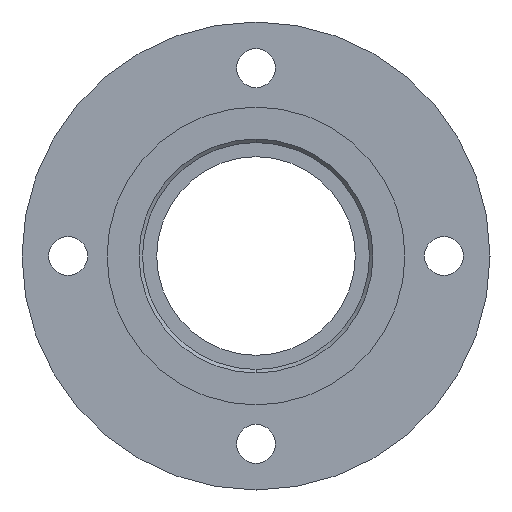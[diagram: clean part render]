
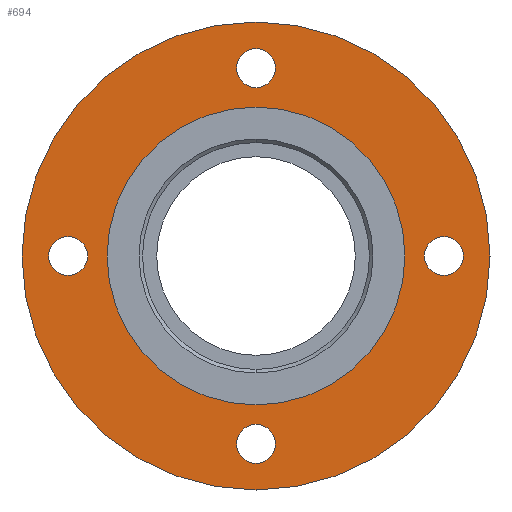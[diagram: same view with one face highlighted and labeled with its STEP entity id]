
A CAD part, front view. The second image highlights one B-rep face of the part: STEP entity #694.
In plain terms, the highlighted planar face has unit normal (0, -1, 0).
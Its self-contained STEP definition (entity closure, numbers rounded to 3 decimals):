
#8 = CIRCLE ( 'NONE', #708, 2.75 ) ;
#31 = CIRCLE ( 'NONE', #139, 33. ) ;
#56 = CARTESIAN_POINT ( 'NONE',  ( 0., 13., 33. ) ) ;
#67 = CARTESIAN_POINT ( 'NONE',  ( -26.5, 13., 0. ) ) ;
#70 = CARTESIAN_POINT ( 'NONE',  ( 0., 13., -29.25 ) ) ;
#84 = DIRECTION ( 'NONE',  ( 0., 1., 0. ) ) ;
#95 = AXIS2_PLACEMENT_3D ( 'NONE', #110, #1015, #1555 ) ;
#101 = VERTEX_POINT ( 'NONE', #666 ) ;
#104 = DIRECTION ( 'NONE',  ( 0., 0., 1. ) ) ;
#110 = CARTESIAN_POINT ( 'NONE',  ( 0., 13., 0. ) ) ;
#131 = DIRECTION ( 'NONE',  ( 0., 1., 0. ) ) ;
#138 = CARTESIAN_POINT ( 'NONE',  ( 0., 13., -26.5 ) ) ;
#139 = AXIS2_PLACEMENT_3D ( 'NONE', #1523, #726, #738 ) ;
#148 = CIRCLE ( 'NONE', #825, 2.75 ) ;
#164 = CARTESIAN_POINT ( 'NONE',  ( 0., 13., 0. ) ) ;
#165 = ORIENTED_EDGE ( 'NONE', *, *, #1578, .F. ) ;
#182 = FACE_BOUND ( 'NONE', #1008, .T. ) ;
#203 = CARTESIAN_POINT ( 'NONE',  ( 0., 13., 29.25 ) ) ;
#251 = CARTESIAN_POINT ( 'NONE',  ( 0., 13., -26.5 ) ) ;
#260 = EDGE_CURVE ( 'NONE', #1276, #1350, #31, .T. ) ;
#289 = PLANE ( 'NONE',  #870 ) ;
#322 = DIRECTION ( 'NONE',  ( 0., 1., 0. ) ) ;
#327 = ORIENTED_EDGE ( 'NONE', *, *, #260, .T. ) ;
#358 = CARTESIAN_POINT ( 'NONE',  ( 0., 13., 26.5 ) ) ;
#364 = CIRCLE ( 'NONE', #472, 33. ) ;
#370 = ORIENTED_EDGE ( 'NONE', *, *, #1125, .T. ) ;
#372 = EDGE_LOOP ( 'NONE', ( #165, #718 ) ) ;
#373 = VERTEX_POINT ( 'NONE', #70 ) ;
#377 = EDGE_CURVE ( 'NONE', #672, #1088, #1550, .T. ) ;
#408 = EDGE_LOOP ( 'NONE', ( #370, #1553 ) ) ;
#443 = ORIENTED_EDGE ( 'NONE', *, *, #1199, .T. ) ;
#444 = CARTESIAN_POINT ( 'NONE',  ( -33., 13., 0. ) ) ;
#458 = CARTESIAN_POINT ( 'NONE',  ( 0., 13., 23.75 ) ) ;
#472 = AXIS2_PLACEMENT_3D ( 'NONE', #721, #732, #1416 ) ;
#494 = DIRECTION ( 'NONE',  ( 0., 0., 1. ) ) ;
#503 = CIRCLE ( 'NONE', #532, 2.75 ) ;
#507 = EDGE_CURVE ( 'NONE', #1561, #373, #868, .T. ) ;
#524 = AXIS2_PLACEMENT_3D ( 'NONE', #164, #1507, #1376 ) ;
#532 = AXIS2_PLACEMENT_3D ( 'NONE', #621, #1016, #104 ) ;
#539 = CARTESIAN_POINT ( 'NONE',  ( 0., 13., 26.5 ) ) ;
#542 = ORIENTED_EDGE ( 'NONE', *, *, #1315, .T. ) ;
#549 = CARTESIAN_POINT ( 'NONE',  ( -26.5, 13., 2.75 ) ) ;
#572 = AXIS2_PLACEMENT_3D ( 'NONE', #358, #322, #876 ) ;
#584 = ORIENTED_EDGE ( 'NONE', *, *, #507, .T. ) ;
#594 = CARTESIAN_POINT ( 'NONE',  ( 26.5, 13., 0. ) ) ;
#621 = CARTESIAN_POINT ( 'NONE',  ( 26.5, 13., 0. ) ) ;
#622 = CARTESIAN_POINT ( 'NONE',  ( 26.5, 13., -2.75 ) ) ;
#665 = EDGE_LOOP ( 'NONE', ( #584, #1543 ) ) ;
#666 = CARTESIAN_POINT ( 'NONE',  ( 0., 13., 21. ) ) ;
#672 = VERTEX_POINT ( 'NONE', #549 ) ;
#679 = FACE_BOUND ( 'NONE', #665, .T. ) ;
#680 = AXIS2_PLACEMENT_3D ( 'NONE', #748, #1666, #1412 ) ;
#685 = AXIS2_PLACEMENT_3D ( 'NONE', #67, #84, #1512 ) ;
#693 = FACE_BOUND ( 'NONE', #372, .T. ) ;
#694 = ADVANCED_FACE ( 'NONE', ( #1349, #956, #679, #182, #693, #1362 ), #289, .F. ) ;
#708 = AXIS2_PLACEMENT_3D ( 'NONE', #251, #1677, #494 ) ;
#710 = VERTEX_POINT ( 'NONE', #1490 ) ;
#715 = EDGE_CURVE ( 'NONE', #101, #710, #1411, .T. ) ;
#718 = ORIENTED_EDGE ( 'NONE', *, *, #715, .F. ) ;
#721 = CARTESIAN_POINT ( 'NONE',  ( 0., 13., 0. ) ) ;
#726 = DIRECTION ( 'NONE',  ( 0., -1., 0. ) ) ;
#732 = DIRECTION ( 'NONE',  ( 0., -1., 0. ) ) ;
#738 = DIRECTION ( 'NONE',  ( 0., 0., -1. ) ) ;
#748 = CARTESIAN_POINT ( 'NONE',  ( -26.5, 13., 0. ) ) ;
#779 = VERTEX_POINT ( 'NONE', #622 ) ;
#792 = VERTEX_POINT ( 'NONE', #458 ) ;
#813 = CIRCLE ( 'NONE', #1098, 2.75 ) ;
#816 = DIRECTION ( 'NONE',  ( 0., 0., 1. ) ) ;
#825 = AXIS2_PLACEMENT_3D ( 'NONE', #594, #1653, #863 ) ;
#849 = EDGE_CURVE ( 'NONE', #792, #1438, #1069, .T. ) ;
#863 = DIRECTION ( 'NONE',  ( 0., 0., 1. ) ) ;
#868 = CIRCLE ( 'NONE', #1109, 2.75 ) ;
#870 = AXIS2_PLACEMENT_3D ( 'NONE', #444, #950, #816 ) ;
#876 = DIRECTION ( 'NONE',  ( 0., 0., 1. ) ) ;
#903 = EDGE_LOOP ( 'NONE', ( #443, #542 ) ) ;
#904 = DIRECTION ( 'NONE',  ( 0., 0., 1. ) ) ;
#939 = DIRECTION ( 'NONE',  ( 0., 0., 1. ) ) ;
#948 = ORIENTED_EDGE ( 'NONE', *, *, #377, .T. ) ;
#950 = DIRECTION ( 'NONE',  ( 0., 1., 0. ) ) ;
#954 = CARTESIAN_POINT ( 'NONE',  ( -26.5, 13., -2.75 ) ) ;
#956 = FACE_BOUND ( 'NONE', #903, .T. ) ;
#967 = CIRCLE ( 'NONE', #95, 21. ) ;
#988 = CARTESIAN_POINT ( 'NONE',  ( 0., 13., -33. ) ) ;
#1008 = EDGE_LOOP ( 'NONE', ( #948, #1167 ) ) ;
#1015 = DIRECTION ( 'NONE',  ( 0., -1., 0. ) ) ;
#1016 = DIRECTION ( 'NONE',  ( 0., 1., 0. ) ) ;
#1063 = DIRECTION ( 'NONE',  ( 0., 1., 0. ) ) ;
#1069 = CIRCLE ( 'NONE', #572, 2.75 ) ;
#1088 = VERTEX_POINT ( 'NONE', #954 ) ;
#1098 = AXIS2_PLACEMENT_3D ( 'NONE', #539, #1063, #939 ) ;
#1109 = AXIS2_PLACEMENT_3D ( 'NONE', #138, #131, #904 ) ;
#1125 = EDGE_CURVE ( 'NONE', #1438, #792, #813, .T. ) ;
#1167 = ORIENTED_EDGE ( 'NONE', *, *, #1252, .T. ) ;
#1199 = EDGE_CURVE ( 'NONE', #1597, #779, #148, .T. ) ;
#1238 = EDGE_CURVE ( 'NONE', #1350, #1276, #364, .T. ) ;
#1252 = EDGE_CURVE ( 'NONE', #1088, #672, #1612, .T. ) ;
#1276 = VERTEX_POINT ( 'NONE', #56 ) ;
#1315 = EDGE_CURVE ( 'NONE', #779, #1597, #503, .T. ) ;
#1349 = FACE_BOUND ( 'NONE', #408, .T. ) ;
#1350 = VERTEX_POINT ( 'NONE', #988 ) ;
#1362 = FACE_OUTER_BOUND ( 'NONE', #1540, .T. ) ;
#1376 = DIRECTION ( 'NONE',  ( 0., 0., -1. ) ) ;
#1411 = CIRCLE ( 'NONE', #524, 21. ) ;
#1412 = DIRECTION ( 'NONE',  ( 0., 0., 1. ) ) ;
#1416 = DIRECTION ( 'NONE',  ( 0., 0., -1. ) ) ;
#1438 = VERTEX_POINT ( 'NONE', #203 ) ;
#1490 = CARTESIAN_POINT ( 'NONE',  ( 0., 13., -21. ) ) ;
#1507 = DIRECTION ( 'NONE',  ( 0., -1., 0. ) ) ;
#1512 = DIRECTION ( 'NONE',  ( 0., 0., 1. ) ) ;
#1523 = CARTESIAN_POINT ( 'NONE',  ( 0., 13., 0. ) ) ;
#1535 = CARTESIAN_POINT ( 'NONE',  ( 0., 13., -23.75 ) ) ;
#1540 = EDGE_LOOP ( 'NONE', ( #1699, #327 ) ) ;
#1543 = ORIENTED_EDGE ( 'NONE', *, *, #1574, .T. ) ;
#1550 = CIRCLE ( 'NONE', #680, 2.75 ) ;
#1553 = ORIENTED_EDGE ( 'NONE', *, *, #849, .T. ) ;
#1555 = DIRECTION ( 'NONE',  ( 0., 0., -1. ) ) ;
#1561 = VERTEX_POINT ( 'NONE', #1535 ) ;
#1574 = EDGE_CURVE ( 'NONE', #373, #1561, #8, .T. ) ;
#1578 = EDGE_CURVE ( 'NONE', #710, #101, #967, .T. ) ;
#1597 = VERTEX_POINT ( 'NONE', #1701 ) ;
#1612 = CIRCLE ( 'NONE', #685, 2.75 ) ;
#1653 = DIRECTION ( 'NONE',  ( 0., 1., 0. ) ) ;
#1666 = DIRECTION ( 'NONE',  ( 0., 1., 0. ) ) ;
#1677 = DIRECTION ( 'NONE',  ( 0., 1., 0. ) ) ;
#1699 = ORIENTED_EDGE ( 'NONE', *, *, #1238, .T. ) ;
#1701 = CARTESIAN_POINT ( 'NONE',  ( 26.5, 13., 2.75 ) ) ;
